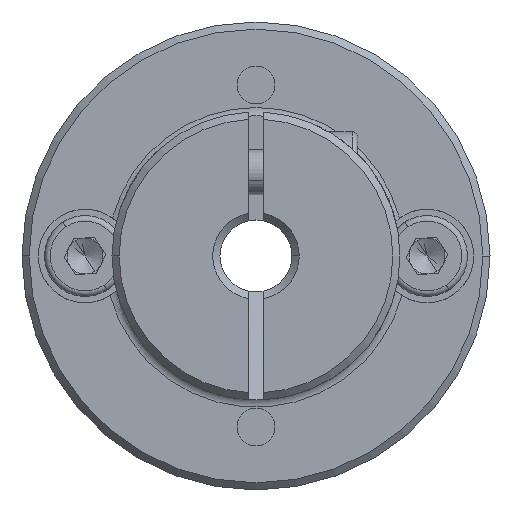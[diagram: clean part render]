
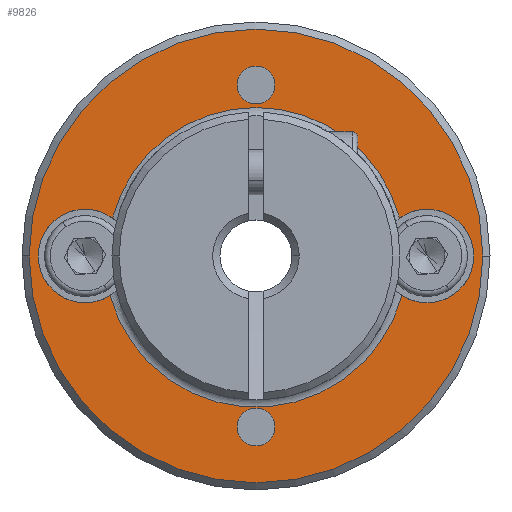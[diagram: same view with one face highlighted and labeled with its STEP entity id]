
A CAD part, front view. The second image highlights one B-rep face of the part: STEP entity #9826.
In plain terms, the highlighted planar face has unit normal (0, -1, 0).
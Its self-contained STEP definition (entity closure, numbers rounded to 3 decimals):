
#23 = DIRECTION ( 'NONE',  ( 1., 0., 0. ) ) ;
#339 = AXIS2_PLACEMENT_3D ( 'NONE', #4140, #1170, #13146 ) ;
#351 = AXIS2_PLACEMENT_3D ( 'NONE', #17581, #3972, #2568 ) ;
#514 = EDGE_LOOP ( 'NONE', ( #2012, #15392 ) ) ;
#1170 = DIRECTION ( 'NONE',  ( 0., -1., 0. ) ) ;
#1449 = DIRECTION ( 'NONE',  ( 0., 1., 0. ) ) ;
#1569 = EDGE_LOOP ( 'NONE', ( #14226, #19301, #11865, #12330, #10220, #7385 ) ) ;
#1649 = DIRECTION ( 'NONE',  ( 1., 0., 0. ) ) ;
#1740 = CIRCLE ( 'NONE', #13843, 12.6 ) ;
#2012 = ORIENTED_EDGE ( 'NONE', *, *, #9255, .T. ) ;
#2117 = AXIS2_PLACEMENT_3D ( 'NONE', #15233, #13775, #16989 ) ;
#2314 = ORIENTED_EDGE ( 'NONE', *, *, #6273, .T. ) ;
#2319 = VERTEX_POINT ( 'NONE', #13598 ) ;
#2327 = CIRCLE ( 'NONE', #14075, 1.05 ) ;
#2418 = FACE_BOUND ( 'NONE', #1569, .T. ) ;
#2439 = CIRCLE ( 'NONE', #339, 12.6 ) ;
#2568 = DIRECTION ( 'NONE',  ( 1., 0., 0. ) ) ;
#2950 = VERTEX_POINT ( 'NONE', #5387 ) ;
#3315 = ORIENTED_EDGE ( 'NONE', *, *, #4586, .T. ) ;
#3539 = AXIS2_PLACEMENT_3D ( 'NONE', #14253, #8078, #3740 ) ;
#3556 = DIRECTION ( 'NONE',  ( 1., 0., 0. ) ) ;
#3605 = EDGE_CURVE ( 'NONE', #11376, #5464, #17015, .T. ) ;
#3624 = EDGE_LOOP ( 'NONE', ( #2314, #9442 ) ) ;
#3676 = DIRECTION ( 'NONE',  ( 0., 1., 0. ) ) ;
#3740 = DIRECTION ( 'NONE',  ( 1., 0., 0. ) ) ;
#3969 = VERTEX_POINT ( 'NONE', #14646 ) ;
#3972 = DIRECTION ( 'NONE',  ( 0., 1., 0. ) ) ;
#4018 = CIRCLE ( 'NONE', #8160, 2.6 ) ;
#4087 = CARTESIAN_POINT ( 'NONE',  ( 4.944, -8.355, 28.105 ) ) ;
#4098 = CIRCLE ( 'NONE', #7019, 1.05 ) ;
#4140 = CARTESIAN_POINT ( 'NONE',  ( -3.03, -8.355, 26. ) ) ;
#4141 = CIRCLE ( 'NONE', #7856, 2.6 ) ;
#4556 = EDGE_CURVE ( 'NONE', #9407, #18851, #13451, .T. ) ;
#4586 = EDGE_CURVE ( 'NONE', #2319, #2950, #4098, .T. ) ;
#4705 = FACE_BOUND ( 'NONE', #12519, .T. ) ;
#4740 = CARTESIAN_POINT ( 'NONE',  ( -11.004, -8.355, 28.105 ) ) ;
#4945 = CIRCLE ( 'NONE', #351, 2.6 ) ;
#4957 = CARTESIAN_POINT ( 'NONE',  ( -15.13, -8.355, 26. ) ) ;
#5035 = CARTESIAN_POINT ( 'NONE',  ( -3.03, -8.355, 26. ) ) ;
#5185 = FACE_OUTER_BOUND ( 'NONE', #3624, .T. ) ;
#5387 = CARTESIAN_POINT ( 'NONE',  ( -1.98, -8.355, 35.5 ) ) ;
#5464 = VERTEX_POINT ( 'NONE', #8048 ) ;
#5722 = DIRECTION ( 'NONE',  ( 0., 1., 0. ) ) ;
#6273 = EDGE_CURVE ( 'NONE', #9085, #3969, #2439, .T. ) ;
#6329 = DIRECTION ( 'NONE',  ( 0., 1., 0. ) ) ;
#7019 = AXIS2_PLACEMENT_3D ( 'NONE', #8841, #1449, #1649 ) ;
#7036 = CARTESIAN_POINT ( 'NONE',  ( -11.138, -8.355, 23.804 ) ) ;
#7266 = CIRCLE ( 'NONE', #2117, 8.247 ) ;
#7341 = DIRECTION ( 'NONE',  ( 1., 0., 0. ) ) ;
#7385 = ORIENTED_EDGE ( 'NONE', *, *, #10423, .T. ) ;
#7752 = CARTESIAN_POINT ( 'NONE',  ( 9.07, -8.355, 26. ) ) ;
#7856 = AXIS2_PLACEMENT_3D ( 'NONE', #18770, #3676, #11220 ) ;
#7945 = AXIS2_PLACEMENT_3D ( 'NONE', #16179, #5722, #7341 ) ;
#8001 = PLANE ( 'NONE',  #18717 ) ;
#8008 = CARTESIAN_POINT ( 'NONE',  ( -12.53, -8.355, 26. ) ) ;
#8048 = CARTESIAN_POINT ( 'NONE',  ( -4.08, -8.355, 16.5 ) ) ;
#8078 = DIRECTION ( 'NONE',  ( 0., 1., 0. ) ) ;
#8160 = AXIS2_PLACEMENT_3D ( 'NONE', #8008, #9525, #15549 ) ;
#8650 = ORIENTED_EDGE ( 'NONE', *, *, #11224, .T. ) ;
#8821 = CARTESIAN_POINT ( 'NONE',  ( -15.63, -8.355, 26. ) ) ;
#8841 = CARTESIAN_POINT ( 'NONE',  ( -3.03, -8.355, 35.5 ) ) ;
#8917 = AXIS2_PLACEMENT_3D ( 'NONE', #9105, #10406, #17836 ) ;
#9085 = VERTEX_POINT ( 'NONE', #8821 ) ;
#9105 = CARTESIAN_POINT ( 'NONE',  ( -12.53, -8.355, 26. ) ) ;
#9255 = EDGE_CURVE ( 'NONE', #5464, #11376, #2327, .T. ) ;
#9337 = DIRECTION ( 'NONE',  ( 1., 0., 0. ) ) ;
#9407 = VERTEX_POINT ( 'NONE', #4957 ) ;
#9409 = DIRECTION ( 'NONE',  ( 0., 1., 0. ) ) ;
#9442 = ORIENTED_EDGE ( 'NONE', *, *, #10857, .T. ) ;
#9525 = DIRECTION ( 'NONE',  ( 0., 1., 0. ) ) ;
#9582 = DIRECTION ( 'NONE',  ( 1., 0., 0. ) ) ;
#9826 = ADVANCED_FACE ( 'NONE', ( #5185, #11030, #4705, #2418 ), #8001, .T. ) ;
#10220 = ORIENTED_EDGE ( 'NONE', *, *, #11118, .T. ) ;
#10406 = DIRECTION ( 'NONE',  ( 0., 1., 0. ) ) ;
#10423 = EDGE_CURVE ( 'NONE', #18093, #18454, #13397, .T. ) ;
#10857 = EDGE_CURVE ( 'NONE', #3969, #9085, #1740, .T. ) ;
#11030 = FACE_BOUND ( 'NONE', #514, .T. ) ;
#11118 = EDGE_CURVE ( 'NONE', #14546, #18093, #4945, .T. ) ;
#11220 = DIRECTION ( 'NONE',  ( 1., 0., 0. ) ) ;
#11224 = EDGE_CURVE ( 'NONE', #2950, #2319, #16649, .T. ) ;
#11376 = VERTEX_POINT ( 'NONE', #18434 ) ;
#11865 = ORIENTED_EDGE ( 'NONE', *, *, #17692, .T. ) ;
#11881 = CARTESIAN_POINT ( 'NONE',  ( 5.078, -8.355, 23.804 ) ) ;
#12330 = ORIENTED_EDGE ( 'NONE', *, *, #14112, .T. ) ;
#12515 = CARTESIAN_POINT ( 'NONE',  ( -3.03, -8.355, 26. ) ) ;
#12519 = EDGE_LOOP ( 'NONE', ( #3315, #8650 ) ) ;
#13146 = DIRECTION ( 'NONE',  ( 1., 0., 0. ) ) ;
#13174 = VERTEX_POINT ( 'NONE', #4087 ) ;
#13397 = CIRCLE ( 'NONE', #14849, 8.4 ) ;
#13451 = CIRCLE ( 'NONE', #8917, 2.6 ) ;
#13598 = CARTESIAN_POINT ( 'NONE',  ( -4.08, -8.355, 35.5 ) ) ;
#13775 = DIRECTION ( 'NONE',  ( 0., 1., 0. ) ) ;
#13843 = AXIS2_PLACEMENT_3D ( 'NONE', #16336, #17863, #23 ) ;
#14075 = AXIS2_PLACEMENT_3D ( 'NONE', #16618, #6329, #9337 ) ;
#14112 = EDGE_CURVE ( 'NONE', #13174, #14546, #4141, .T. ) ;
#14226 = ORIENTED_EDGE ( 'NONE', *, *, #17272, .T. ) ;
#14253 = CARTESIAN_POINT ( 'NONE',  ( -3.03, -8.355, 16.5 ) ) ;
#14546 = VERTEX_POINT ( 'NONE', #7752 ) ;
#14646 = CARTESIAN_POINT ( 'NONE',  ( 9.57, -8.355, 26. ) ) ;
#14849 = AXIS2_PLACEMENT_3D ( 'NONE', #5035, #9409, #3556 ) ;
#15233 = CARTESIAN_POINT ( 'NONE',  ( -3.03, -8.355, 26. ) ) ;
#15392 = ORIENTED_EDGE ( 'NONE', *, *, #3605, .T. ) ;
#15540 = DIRECTION ( 'NONE',  ( 0., -1., 0. ) ) ;
#15549 = DIRECTION ( 'NONE',  ( 1., 0., 0. ) ) ;
#16179 = CARTESIAN_POINT ( 'NONE',  ( -3.03, -8.355, 35.5 ) ) ;
#16336 = CARTESIAN_POINT ( 'NONE',  ( -3.03, -8.355, 26. ) ) ;
#16618 = CARTESIAN_POINT ( 'NONE',  ( -3.03, -8.355, 16.5 ) ) ;
#16649 = CIRCLE ( 'NONE', #7945, 1.05 ) ;
#16989 = DIRECTION ( 'NONE',  ( 1., 0., 0. ) ) ;
#17015 = CIRCLE ( 'NONE', #3539, 1.05 ) ;
#17272 = EDGE_CURVE ( 'NONE', #18454, #9407, #4018, .T. ) ;
#17581 = CARTESIAN_POINT ( 'NONE',  ( 6.47, -8.355, 26. ) ) ;
#17692 = EDGE_CURVE ( 'NONE', #18851, #13174, #7266, .T. ) ;
#17836 = DIRECTION ( 'NONE',  ( 1., 0., 0. ) ) ;
#17863 = DIRECTION ( 'NONE',  ( 0., -1., 0. ) ) ;
#18093 = VERTEX_POINT ( 'NONE', #11881 ) ;
#18434 = CARTESIAN_POINT ( 'NONE',  ( -1.98, -8.355, 16.5 ) ) ;
#18454 = VERTEX_POINT ( 'NONE', #7036 ) ;
#18717 = AXIS2_PLACEMENT_3D ( 'NONE', #12515, #15540, #9582 ) ;
#18770 = CARTESIAN_POINT ( 'NONE',  ( 6.47, -8.355, 26. ) ) ;
#18851 = VERTEX_POINT ( 'NONE', #4740 ) ;
#19301 = ORIENTED_EDGE ( 'NONE', *, *, #4556, .T. ) ;
